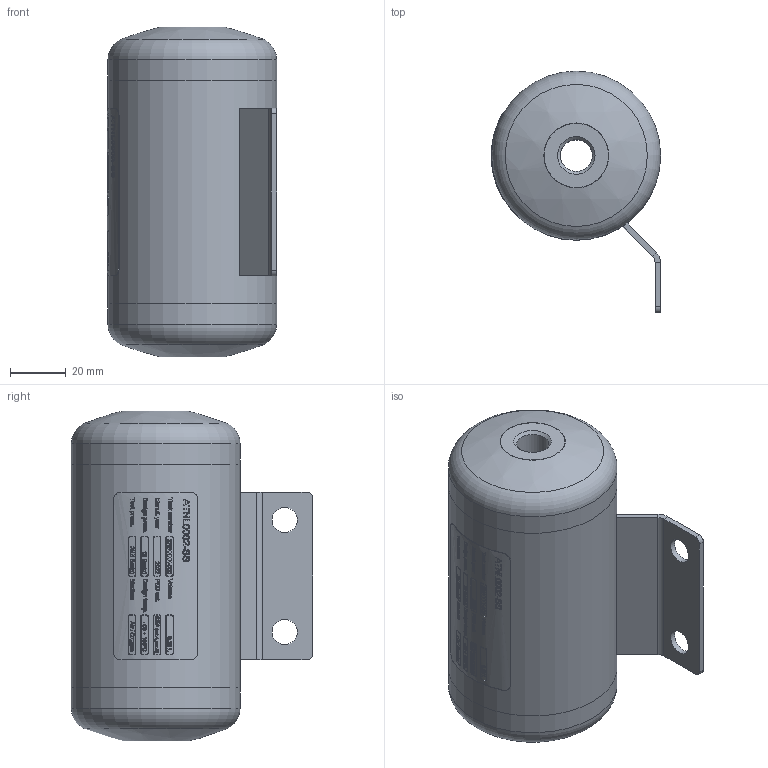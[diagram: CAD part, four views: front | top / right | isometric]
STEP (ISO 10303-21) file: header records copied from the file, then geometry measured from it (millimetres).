
FILE_DESCRIPTION(/* description */ (''),/* implementation_level */ '2;1');
FILE_NAME(/* name */ 'ATNL0002-SS 0.25L.stp',/* time_stamp */ '2022-11-07T13:22:41+01:00',/* author */ ('harm'),/* organization */ (''),/* preprocessor_version */ 'ST-DEVELOPER v19.2',/* originating_system */ 'Autodesk Inventor 2023',/* authorisation */ '');
FILE_SCHEMA (('AUTOMOTIVE_DESIGN { 1 0 10303 214 3 1 1 }'));
Length unit declared in the file: millimetre
Products named in the file (6): -; -_1; -_2; 24866; Bracket small s=2; Typeplaatje ATNL0002-SS
Assembly tree (7 placements, depth 2):
  -
    -_1
    -_2  x2
    24866  x2
    Bracket small s=2
    Typeplaatje ATNL0002-SS
Bounding box: 60.5 x 86.25 x 117.82 mm (x, y, z)
Volume: 55969 mm3; surface area: 60418.9 mm2
Topology: 7 solids, 7 shells, 2404 faces, 6442 edges, 4292 vertices
Faces by surface type: bspline 1369, plane 757, cylinder 262, torus 6, cone 6, sphere 4
Full cylindrical faces by diameter (mm): 9 x2, 11.445 x2, 19 x2, 23 x2, 23.2 x2, 56.3 x3, 60.3 x3
Entity records: 105158 total; most frequent: CARTESIAN_POINT 53663, ORIENTED_EDGE 12812, DIRECTION 6467, EDGE_CURVE 6406, VERTEX_POINT 4268, LINE 2913, VECTOR 2913, B_SPLINE_CURVE_WITH_KNOTS 2746
